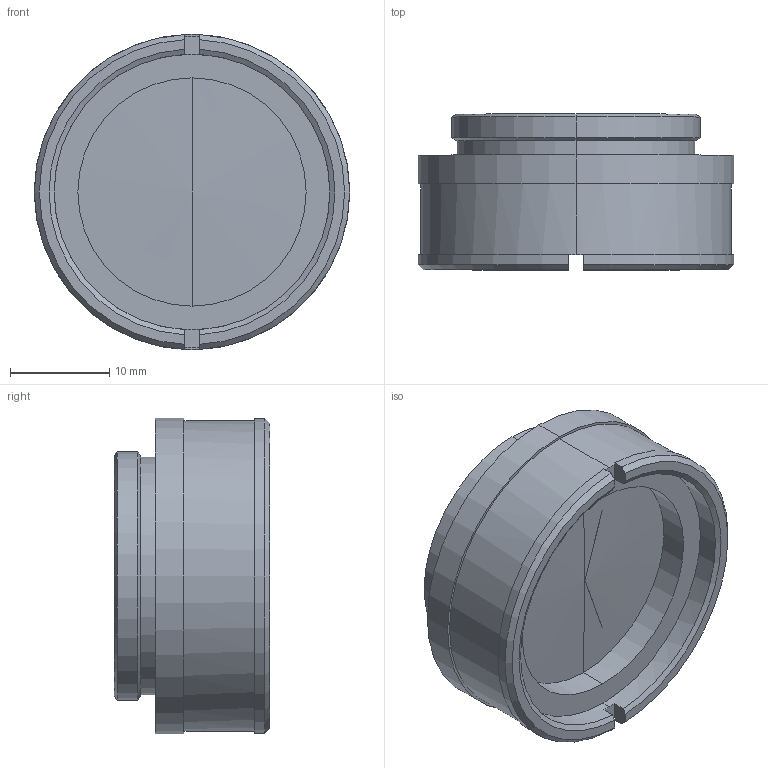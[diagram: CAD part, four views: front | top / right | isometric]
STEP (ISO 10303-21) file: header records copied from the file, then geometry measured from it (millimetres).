
FILE_DESCRIPTION (( 'STEP AP214' ), '1' );
FILE_NAME ('35-00-08-000 OUTLINE.STEP', '2012-11-15T21:32:02', ( '' ), ( '' ), 'SwSTEP 2.0', 'SolidWorks 2011', '' );
FILE_SCHEMA (( 'AUTOMOTIVE_DESIGN' ));
Length unit declared in the file: millimetre
Products named in the file (1): 35-00-08-000 OUTLINE
Bounding box: 31.75 x 15.66 x 31.75 mm (x, y, z)
Volume: 6497.1 mm3; surface area: 3850.2 mm2
Topology: 1 solids, 1 shells, 43 faces, 102 edges, 62 vertices
Faces by surface type: cylinder 16, plane 15, cone 12
Entity records: 1328 total; most frequent: CARTESIAN_POINT 228, DIRECTION 226, ORIENTED_EDGE 196, EDGE_CURVE 98, AXIS2_PLACEMENT_3D 92, VERTEX_POINT 62, CIRCLE 48, EDGE_LOOP 48
